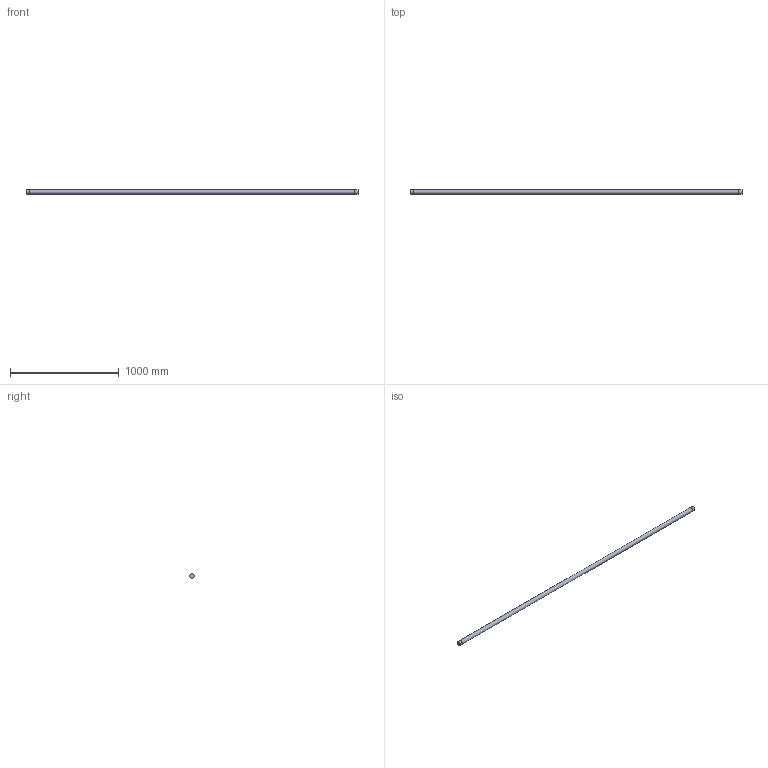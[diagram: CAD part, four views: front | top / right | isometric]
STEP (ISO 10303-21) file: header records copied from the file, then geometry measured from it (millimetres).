
FILE_DESCRIPTION(('FreeCAD Model'),'2;1');
FILE_NAME('Open CASCADE Shape Model','2026-10-12T23:06:14',('Author'),( ''),'Open CASCADE STEP processor 7.8','FreeCAD','Unknown');
FILE_SCHEMA(('AUTOMOTIVE_DESIGN { 1 0 10303 214 1 1 1 1 }'));
Length unit declared in the file: millimetre
Products named in the file (4): noodles; Rope_bucatini_3m; EndCap_Start; EndCap_End
Assembly tree (3 placements, depth 2):
  noodles
    Rope_bucatini_3m
    EndCap_Start
    EndCap_End
Bounding box: 3056 x 41.6 x 41.6 mm (x, y, z)
Volume: 3846025.2 mm3; surface area: 392259.8 mm2
Topology: 3 solids, 3 shells, 9 faces, 9 edges, 6 vertices
Faces by surface type: plane 6, cylinder 3
Full cylindrical faces by diameter (mm): 40 x1, 41.6 x2
Entity records: 229 total; most frequent: DIRECTION 41, CARTESIAN_POINT 28, AXIS2_PLACEMENT_3D 19, ORIENTED_EDGE 18, ADVANCED_FACE 9, FACE_BOUND 9, EDGE_LOOP 9, EDGE_CURVE 9
